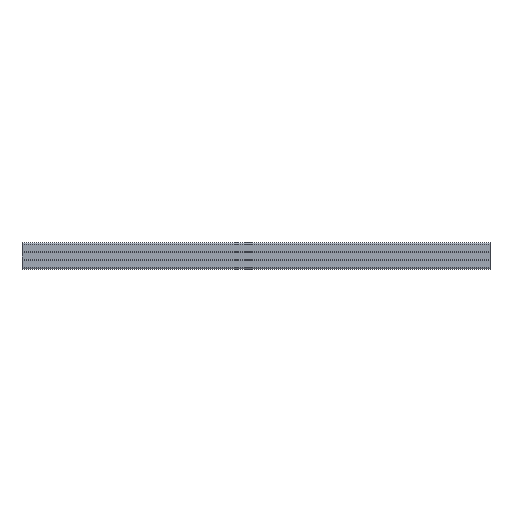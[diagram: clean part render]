
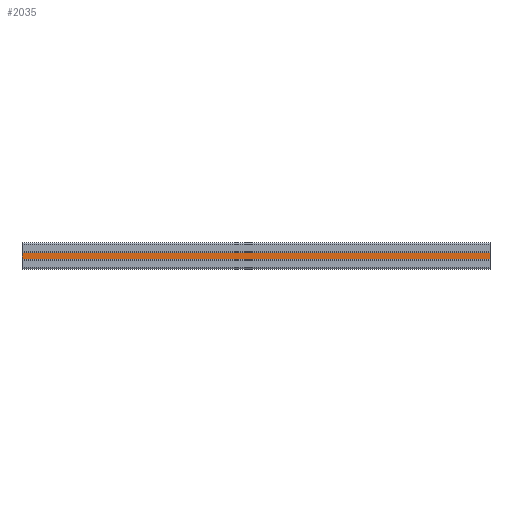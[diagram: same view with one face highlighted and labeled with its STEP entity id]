
A CAD part, front view. The second image highlights one B-rep face of the part: STEP entity #2035.
In plain terms, the highlighted free-form (B-spline) face has degree [1, 1] with [2, 2] control points.
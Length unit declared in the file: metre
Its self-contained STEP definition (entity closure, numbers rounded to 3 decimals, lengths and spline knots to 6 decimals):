
#19=B_SPLINE_SURFACE_WITH_KNOTS('',1,1,((#2866,#2867),(#2868,#2869)),
 .PLANE_SURF.,.F.,.F.,.F.,(2,2),(2,2),(0.,1.),(0.,1.),.UNSPECIFIED.);
#91=LINE('',#2863,#291);
#92=LINE('',#2870,#292);
#93=LINE('',#2872,#293);
#94=LINE('',#2874,#294);
#291=VECTOR('',#2318,1.);
#292=VECTOR('',#2321,1.);
#293=VECTOR('',#2322,1.);
#294=VECTOR('',#2323,1.);
#522=ORIENTED_EDGE('',*,*,#1142,.T.);
#523=ORIENTED_EDGE('',*,*,#1144,.F.);
#524=ORIENTED_EDGE('',*,*,#1145,.F.);
#525=ORIENTED_EDGE('',*,*,#1146,.T.);
#1142=EDGE_CURVE('',#1447,#1446,#91,.T.);
#1144=EDGE_CURVE('',#1448,#1446,#92,.T.);
#1145=EDGE_CURVE('',#1449,#1448,#93,.T.);
#1146=EDGE_CURVE('',#1449,#1447,#94,.T.);
#1446=VERTEX_POINT('',#2862);
#1447=VERTEX_POINT('',#2864);
#1448=VERTEX_POINT('',#2871);
#1449=VERTEX_POINT('',#2873);
#1763=EDGE_LOOP('',(#522,#523,#524,#525));
#1871=FACE_BOUND('',#1763,.T.);
#2035=ADVANCED_FACE('',(#1871),#19,.T.);
#2318=DIRECTION('',(1.,0.,0.));
#2321=DIRECTION('',(0.,0.,-1.));
#2322=DIRECTION('',(1.,0.,0.));
#2323=DIRECTION('',(0.,0.,-1.));
#2862=CARTESIAN_POINT('',(0.113981,-0.0038,-0.019851));
#2863=CARTESIAN_POINT('',(-0.236019,-0.0038,-0.019851));
#2864=CARTESIAN_POINT('',(-0.236019,-0.0038,-0.019851));
#2866=CARTESIAN_POINT('',(-0.253519,-0.0038,-0.01454));
#2867=CARTESIAN_POINT('',(0.131481,-0.0038,-0.01454));
#2868=CARTESIAN_POINT('',(-0.253519,-0.0038,-0.020104));
#2869=CARTESIAN_POINT('',(0.131481,-0.0038,-0.020104));
#2870=CARTESIAN_POINT('',(0.113981,-0.0038,-0.017322));
#2871=CARTESIAN_POINT('',(0.113981,-0.0038,-0.014793));
#2872=CARTESIAN_POINT('',(-0.236019,-0.0038,-0.014793));
#2873=CARTESIAN_POINT('',(-0.236019,-0.0038,-0.014793));
#2874=CARTESIAN_POINT('',(-0.236019,-0.0038,-0.017322));
